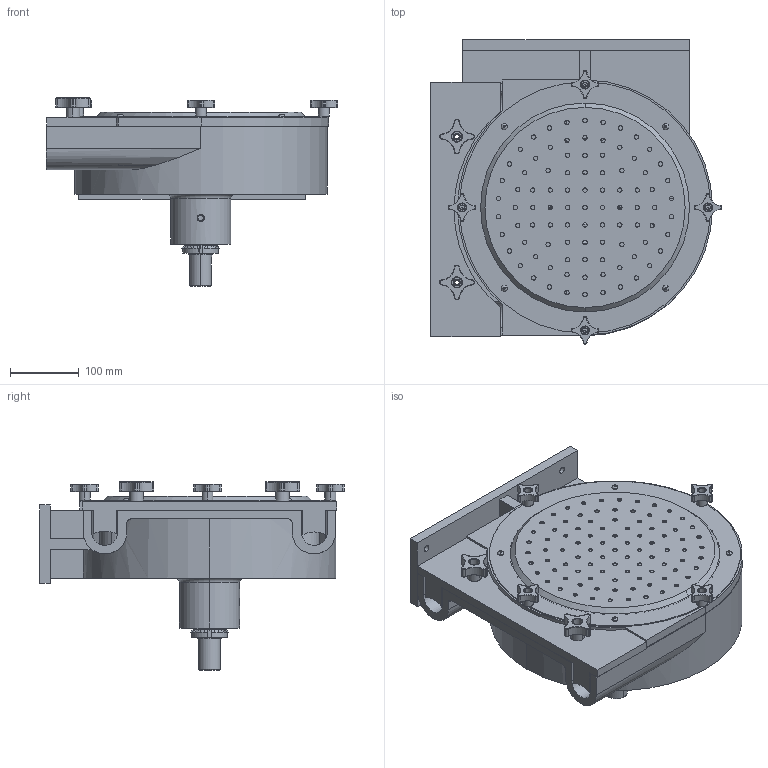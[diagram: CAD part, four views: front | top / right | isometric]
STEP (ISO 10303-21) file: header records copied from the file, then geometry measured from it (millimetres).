
FILE_DESCRIPTION (( 'STEP AP203' ), '1' );
FILE_NAME ('880-pho.STEP', '2012-05-16T19:41:18', ( '' ), ( '' ), 'SwSTEP 2.0', 'SolidWorks 2012', '' );
FILE_SCHEMA (( 'CONFIG_CONTROL_DESIGN' ));
Length unit declared in the file: inch
Products named in the file (1): 880-pho
Bounding box: 425.23 x 444.17 x 274.28 mm (x, y, z)
Surface area: 1031302.3 mm2 (no closed solid volume)
Topology: 0 solids, 36 shells, 774 faces, 2454 edges, 1663 vertices
Faces by surface type: cylinder 407, bspline 141, plane 137, cone 68, torus 20, sphere 1
Entity records: 33714 total; most frequent: CARTESIAN_POINT 13439, DIRECTION 4181, ORIENTED_EDGE 3966, EDGE_CURVE 2452, AXIS2_PLACEMENT_3D 1720, VERTEX_POINT 1662, CIRCLE 1086, EDGE_LOOP 944
